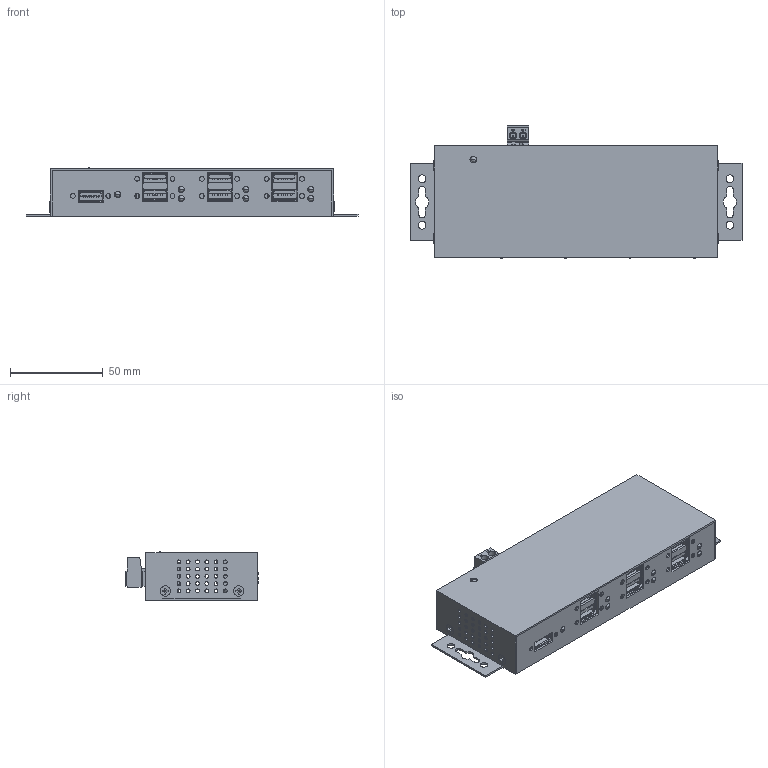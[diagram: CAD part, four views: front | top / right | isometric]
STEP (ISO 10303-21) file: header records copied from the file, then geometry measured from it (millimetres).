
FILE_DESCRIPTION(('FreeCAD Model'),'2;1');
FILE_NAME('Open CASCADE Shape Model','2024-04-25T08:39:12',('Author'),( ''),'Open CASCADE STEP processor 7.6','FreeCAD','Unknown');
FILE_SCHEMA(('AUTOMOTIVE_DESIGN { 1 0 10303 214 1 1 1 1 }'));
Products named in the file (1): EX-1507HMS_3D
Bounding box: 178.6 x 71.52 x 25.97 mm (x, y, z)
Volume: 59466.3 mm3; surface area: 91149.6 mm2
Topology: 9 solids, 11 shells, 3145 faces, 9061 edges, 5976 vertices
Faces by surface type: plane 2152, cylinder 786, cone 96, torus 77, sphere 28, revolution 6
Full cylindrical faces by diameter (mm): 2 x61, 2.5 x4, 2.6 x24, 3 x1, 3.12 x2, 3.2 x1, 3.3 x7, 3.4 x1, 3.5 x4, 3.6 x1, 4 x4, 4.2 x4, 5.3 x4
Entity records: 341384 total; most frequent: CARTESIAN_POINT 153735, DIRECTION 28431, ORIENTED_EDGE 18066, PCURVE 18066, DEFINITIONAL_REPRESENTATION 18066, LINE 16907, VECTOR 16907, EDGE_CURVE 9033
